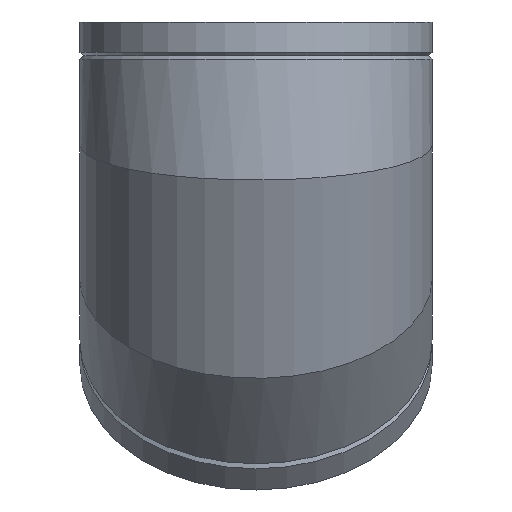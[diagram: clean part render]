
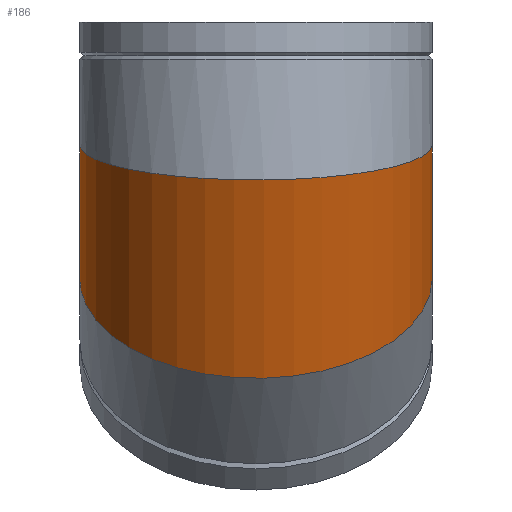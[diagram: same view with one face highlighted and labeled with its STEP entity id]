
A CAD part, front view. The second image highlights one B-rep face of the part: STEP entity #186.
In plain terms, the highlighted cylindrical face has radius 157.5 mm (diameter 315 mm), a full revolution.
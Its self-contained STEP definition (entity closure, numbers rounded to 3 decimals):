
#15=ELLIPSE($,#196,160.586,157.5);
#16=ELLIPSE($,#197,160.586,157.5);
#17=ELLIPSE($,#204,160.586,157.5);
#18=ELLIPSE($,#205,160.586,157.5);
#30=CYLINDRICAL_SURFACE($,#221,157.5);
#46=FACE_BOUND($,#86,.T.);
#58=FACE_OUTER_BOUND($,#85,.T.);
#85=EDGE_LOOP($,(#165,#166));
#86=EDGE_LOOP($,(#167,#168));
#100=VERTEX_POINT($,#298);
#101=VERTEX_POINT($,#299);
#105=VERTEX_POINT($,#311);
#106=VERTEX_POINT($,#312);
#118=EDGE_CURVE($,#100,#101,#15,.T.);
#119=EDGE_CURVE($,#101,#100,#16,.T.);
#123=EDGE_CURVE($,#105,#106,#17,.T.);
#124=EDGE_CURVE($,#106,#105,#18,.T.);
#165=ORIENTED_EDGE($,*,*,#119,.F.);
#166=ORIENTED_EDGE($,*,*,#118,.F.);
#167=ORIENTED_EDGE($,*,*,#123,.T.);
#168=ORIENTED_EDGE($,*,*,#124,.T.);
#186=ADVANCED_FACE($,(#58,#46),#30,.T.);
#196=AXIS2_PLACEMENT_3D($,#300,#236,#237);
#197=AXIS2_PLACEMENT_3D($,#301,#238,#239);
#204=AXIS2_PLACEMENT_3D($,#313,#252,#253);
#205=AXIS2_PLACEMENT_3D($,#314,#254,#255);
#221=AXIS2_PLACEMENT_3D($,#338,#286,#287);
#236=DIRECTION('center_axis',(0.,0.556,-0.831));
#237=DIRECTION('ref_axis',(0.,-0.831,-0.556));
#238=DIRECTION('center_axis',(0.,0.556,-0.831));
#239=DIRECTION('ref_axis',(0.,-0.831,-0.556));
#252=DIRECTION('center_axis',(0.,0.195,-0.981));
#253=DIRECTION('ref_axis',(0.,-0.981,-0.195));
#254=DIRECTION('center_axis',(0.,0.195,-0.981));
#255=DIRECTION('ref_axis',(0.,-0.981,-0.195));
#286=DIRECTION('center_axis',(0.,-0.383,0.924));
#287=DIRECTION('ref_axis',(-1.,0.,0.));
#298=CARTESIAN_POINT('',(157.5,49.497,-49.497));
#299=CARTESIAN_POINT('',(-157.5,49.497,-49.497));
#300=CARTESIAN_POINT('Origin',(0.,49.497,-49.497));
#301=CARTESIAN_POINT('Origin',(0.,49.497,-49.497));
#311=CARTESIAN_POINT('',(-157.5,0.,70.));
#312=CARTESIAN_POINT('',(157.5,0.,70.));
#313=CARTESIAN_POINT('Origin',(0.,0.,70.));
#314=CARTESIAN_POINT('Origin',(0.,0.,70.));
#338=CARTESIAN_POINT('Origin',(0.,24.749,10.251));
